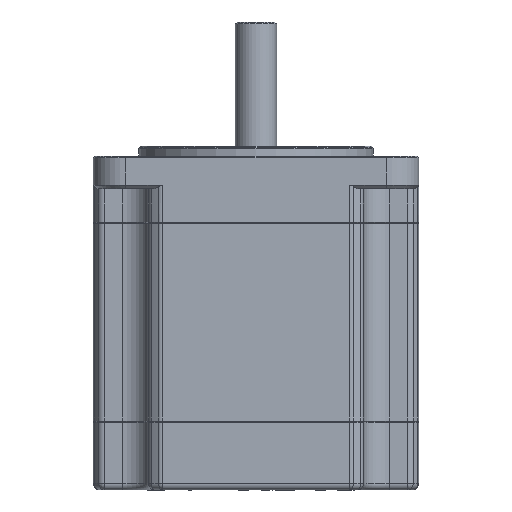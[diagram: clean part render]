
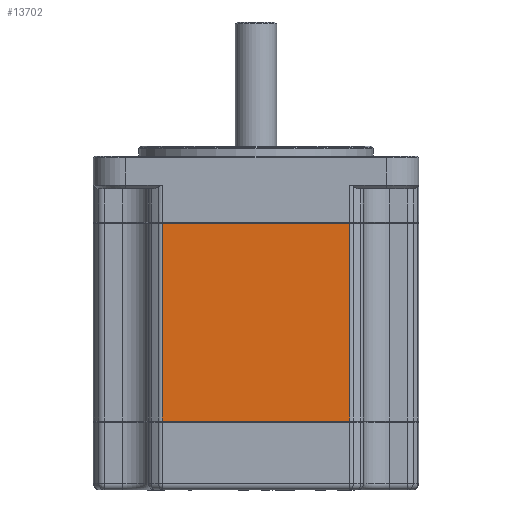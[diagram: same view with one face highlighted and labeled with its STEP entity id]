
A CAD part, front view. The second image highlights one B-rep face of the part: STEP entity #13702.
In plain terms, the highlighted planar face has unit normal (0, -1, 0).
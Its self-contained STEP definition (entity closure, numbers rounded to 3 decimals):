
#233 = ORIENTED_EDGE ( 'NONE', *, *, #13995, .F. ) ;
#234 = ORIENTED_EDGE ( 'NONE', *, *, #13992, .T. ) ;
#235 = ORIENTED_EDGE ( 'NONE', *, *, #13994, .T. ) ;
#236 = ORIENTED_EDGE ( 'NONE', *, *, #13996, .T. ) ;
#1681 = VERTEX_POINT ( 'NONE', #8578 ) ;
#1682 = VERTEX_POINT ( 'NONE', #8579 ) ;
#1683 = VERTEX_POINT ( 'NONE', #8580 ) ;
#1684 = VERTEX_POINT ( 'NONE', #8581 ) ;
#1905 = EDGE_LOOP ( 'NONE', ( #233, #235, #234, #236 ) ) ;
#3075 = LINE ( 'NONE', #3076, #16472 ) ;
#3076 = CARTESIAN_POINT ( 'NONE',  ( 14.422, -25., -40.9 ) ) ;
#3077 = DIRECTION ( 'NONE',  ( 0., 0., 1. ) ) ;
#3081 = LINE ( 'NONE', #3082, #16473 ) ;
#3082 = CARTESIAN_POINT ( 'NONE',  ( 14.422, -25., -40.7 ) ) ;
#3083 = DIRECTION ( 'NONE',  ( 1., 0., 0. ) ) ;
#3084 = LINE ( 'NONE', #3085, #16475 ) ;
#3085 = CARTESIAN_POINT ( 'NONE',  ( -14.422, -25., -40.9 ) ) ;
#3086 = DIRECTION ( 'NONE',  ( 0., 0., 1. ) ) ;
#3087 = LINE ( 'NONE', #3088, #16477 ) ;
#3088 = CARTESIAN_POINT ( 'NONE',  ( 14.422, -25., -10.4 ) ) ;
#3089 = DIRECTION ( 'NONE',  ( -1., 0., 0. ) ) ;
#8578 = CARTESIAN_POINT ( 'NONE',  ( 14.422, -25., -40.7 ) ) ;
#8579 = CARTESIAN_POINT ( 'NONE',  ( 14.422, -25., -10.4 ) ) ;
#8580 = CARTESIAN_POINT ( 'NONE',  ( -14.422, -25., -40.7 ) ) ;
#8581 = CARTESIAN_POINT ( 'NONE',  ( -14.422, -25., -10.4 ) ) ;
#13702 = ADVANCED_FACE ( 'NONE', ( #16188 ), #17484, .F. ) ;
#13992 = EDGE_CURVE ( 'NONE', #1681, #1682, #3075, .T. ) ;
#13994 = EDGE_CURVE ( 'NONE', #1683, #1681, #3081, .T. ) ;
#13995 = EDGE_CURVE ( 'NONE', #1683, #1684, #3084, .T. ) ;
#13996 = EDGE_CURVE ( 'NONE', #1682, #1684, #3087, .T. ) ;
#16188 = FACE_OUTER_BOUND ( 'NONE', #1905, .T. ) ;
#16193 = AXIS2_PLACEMENT_3D ( 'NONE', #17485, #17486, #17487 ) ;
#16472 = VECTOR ( 'NONE', #3077, 1000. ) ;
#16473 = VECTOR ( 'NONE', #3083, 1000. ) ;
#16475 = VECTOR ( 'NONE', #3086, 1000. ) ;
#16477 = VECTOR ( 'NONE', #3089, 1000. ) ;
#17484 = PLANE ( 'NONE',  #16193 ) ;
#17485 = CARTESIAN_POINT ( 'NONE',  ( 14.422, -25., -40.9 ) ) ;
#17486 = DIRECTION ( 'NONE',  ( 0., 1., 0. ) ) ;
#17487 = DIRECTION ( 'NONE',  ( 0., 0., 1. ) ) ;
